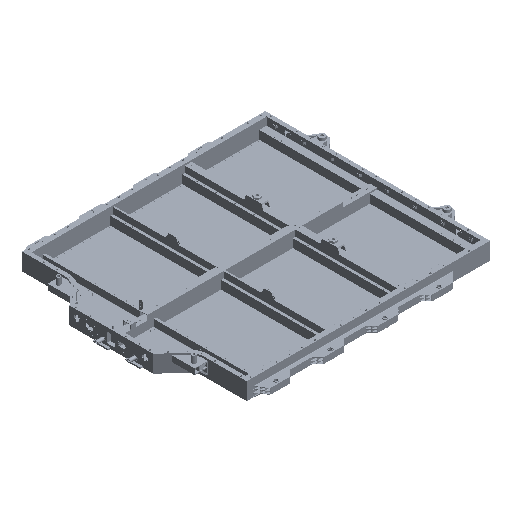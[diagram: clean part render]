
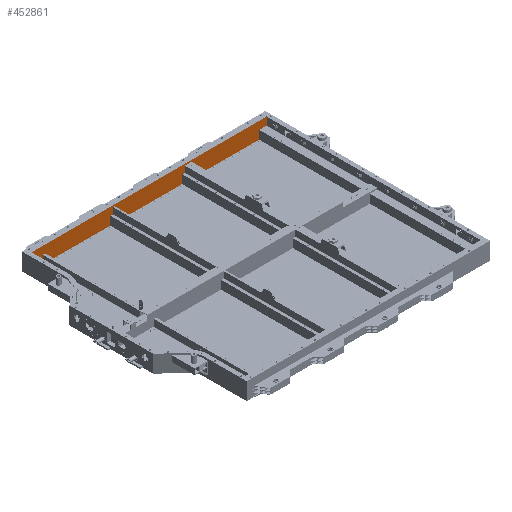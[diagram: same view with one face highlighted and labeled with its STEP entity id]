
A CAD part, isometric view. The second image highlights one B-rep face of the part: STEP entity #452861.
In plain terms, the highlighted planar face has unit normal (0, -1, 0).
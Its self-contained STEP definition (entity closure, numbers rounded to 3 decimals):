
#4069 = DIRECTION ( 'NONE',  ( -1., 0., 0. ) ) ;
#25736 = ORIENTED_EDGE ( 'NONE', *, *, #101224, .F. ) ;
#30554 = EDGE_CURVE ( 'NONE', #367912, #381751, #270433, .T. ) ;
#42011 = VECTOR ( 'NONE', #407376, 1000. ) ;
#44128 = CARTESIAN_POINT ( 'NONE',  ( 2370., 650.5, 877.922 ) ) ;
#49586 = FACE_OUTER_BOUND ( 'NONE', #129609, .T. ) ;
#64905 = VECTOR ( 'NONE', #394649, 1000. ) ;
#78574 = VECTOR ( 'NONE', #360370, 1000. ) ;
#80564 = CARTESIAN_POINT ( 'NONE',  ( 3092., 650.5, 874.922 ) ) ;
#91544 = CARTESIAN_POINT ( 'NONE',  ( 1663., 650.5, 874.922 ) ) ;
#101224 = EDGE_CURVE ( 'NONE', #394674, #269899, #114259, .T. ) ;
#114259 = LINE ( 'NONE', #244853, #273814 ) ;
#114488 = DIRECTION ( 'NONE',  ( 0., 0., 1. ) ) ;
#122978 = ORIENTED_EDGE ( 'NONE', *, *, #153223, .F. ) ;
#129609 = EDGE_LOOP ( 'NONE', ( #25736, #447552, #181960, #122978 ) ) ;
#153223 = EDGE_CURVE ( 'NONE', #269899, #367912, #283202, .T. ) ;
#181960 = ORIENTED_EDGE ( 'NONE', *, *, #30554, .F. ) ;
#183761 = PLANE ( 'NONE',  #358666 ) ;
#184651 = CARTESIAN_POINT ( 'NONE',  ( 1663., 650.5, 973.922 ) ) ;
#185839 = LINE ( 'NONE', #393120, #64905 ) ;
#194996 = EDGE_CURVE ( 'NONE', #381751, #394674, #185839, .T. ) ;
#220532 = DIRECTION ( 'NONE',  ( 0., 1., 0. ) ) ;
#225096 = CARTESIAN_POINT ( 'NONE',  ( 2370., 650.5, 973.922 ) ) ;
#244853 = CARTESIAN_POINT ( 'NONE',  ( 2370., 650.5, 874.922 ) ) ;
#269899 = VERTEX_POINT ( 'NONE', #91544 ) ;
#270433 = LINE ( 'NONE', #225096, #78574 ) ;
#273814 = VECTOR ( 'NONE', #4069, 1000. ) ;
#283202 = LINE ( 'NONE', #404405, #42011 ) ;
#357435 = CARTESIAN_POINT ( 'NONE',  ( 3092., 650.5, 973.922 ) ) ;
#358666 = AXIS2_PLACEMENT_3D ( 'NONE', #44128, #220532, #114488 ) ;
#360370 = DIRECTION ( 'NONE',  ( 1., 0., 0. ) ) ;
#367912 = VERTEX_POINT ( 'NONE', #184651 ) ;
#381751 = VERTEX_POINT ( 'NONE', #357435 ) ;
#393120 = CARTESIAN_POINT ( 'NONE',  ( 3092., 650.5, 877.922 ) ) ;
#394649 = DIRECTION ( 'NONE',  ( 0., 0., -1. ) ) ;
#394674 = VERTEX_POINT ( 'NONE', #80564 ) ;
#404405 = CARTESIAN_POINT ( 'NONE',  ( 1663., 650.5, 877.922 ) ) ;
#407376 = DIRECTION ( 'NONE',  ( 0., 0., 1. ) ) ;
#447552 = ORIENTED_EDGE ( 'NONE', *, *, #194996, .F. ) ;
#452861 = ADVANCED_FACE ( 'NONE', ( #49586 ), #183761, .F. ) ;
